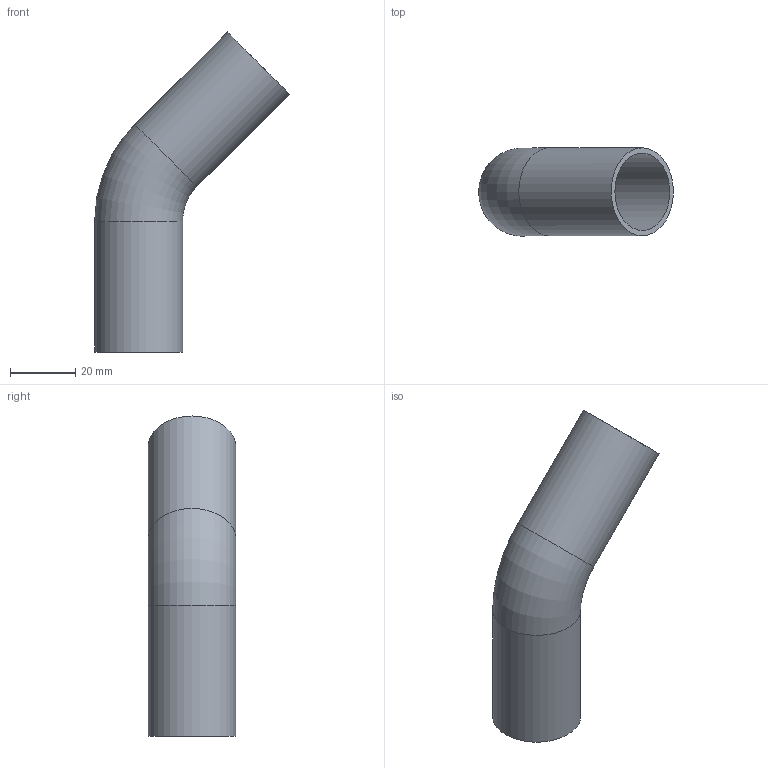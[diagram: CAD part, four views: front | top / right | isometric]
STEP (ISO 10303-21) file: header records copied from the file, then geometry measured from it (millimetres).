
FILE_DESCRIPTION(('Elbow 26,9x1,6_45 deg-Version 00'),'2;1');
FILE_NAME('E045_26,9x1,6_MR28,5_L51,8_00.stp','2013-09-04T12:26:05',(''),('DOCKWEILER AG'),'Autodesk Inventor 2012','Autodesk Inventor 2012','');
FILE_SCHEMA(('CONFIG_CONTROL_DESIGN'));
Length unit declared in the file: millimetre
Products named in the file (1): N0001_003_001
Bounding box: 59.59 x 26.9 x 97.94 mm (x, y, z)
Volume: 13019 mm3; surface area: 16528.1 mm2
Topology: 1 solids, 1 shells, 8 faces, 14 edges, 8 vertices
Faces by surface type: cylinder 4, torus 2, plane 2
Full cylindrical faces by diameter (mm): 23.7 x2, 26.9 x2
Entity records: 194 total; most frequent: DIRECTION 34, CARTESIAN_POINT 25, AXIS2_PLACEMENT_3D 17, ORIENTED_EDGE 16, EDGE_LOOP 16, VERTEX_POINT 8, CIRCLE 8, EDGE_CURVE 8
